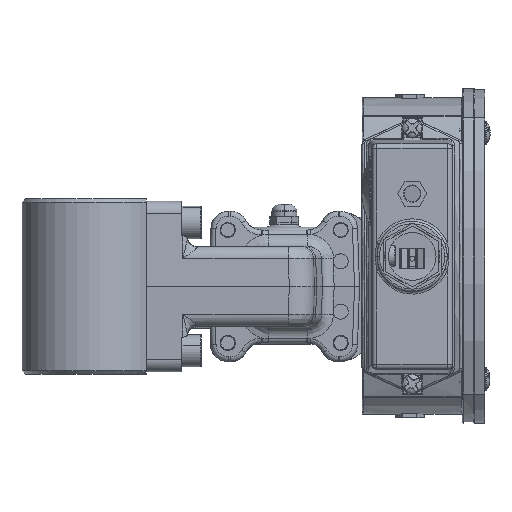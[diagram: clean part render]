
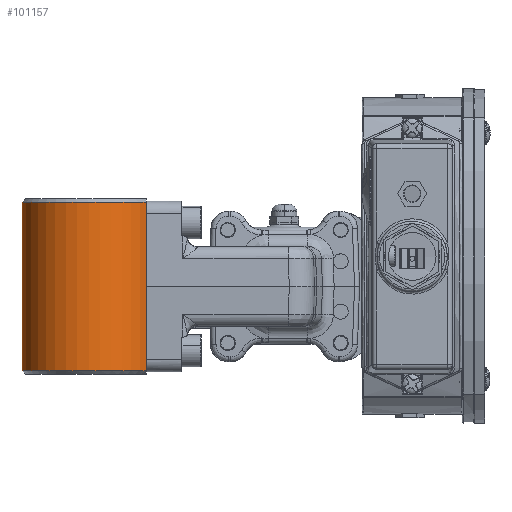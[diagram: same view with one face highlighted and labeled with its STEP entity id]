
A CAD part, front view. The second image highlights one B-rep face of the part: STEP entity #101157.
In plain terms, the highlighted cylindrical face has radius 26.5 mm (diameter 53 mm), a partial arc.
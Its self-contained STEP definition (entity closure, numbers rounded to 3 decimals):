
#2305 = CARTESIAN_POINT ( 'NONE',  ( -78.19, -367.693, 55.968 ) ) ;
#2432 = EDGE_CURVE ( 'NONE', #48945, #43047, #47043, .T. ) ;
#3003 = CARTESIAN_POINT ( 'NONE',  ( -55.19, -380.856, 55.968 ) ) ;
#3076 = ORIENTED_EDGE ( 'NONE', *, *, #76646, .T. ) ;
#6086 = ORIENTED_EDGE ( 'NONE', *, *, #2432, .T. ) ;
#8788 = CIRCLE ( 'NONE', #40958, 26.5 ) ;
#8857 = CARTESIAN_POINT ( 'NONE',  ( -78.19, -367.693, 57.468 ) ) ;
#16573 = LINE ( 'NONE', #44223, #97644 ) ;
#23041 = DIRECTION ( 'NONE',  ( 0., 0., 1. ) ) ;
#24080 = VERTEX_POINT ( 'NONE', #28230 ) ;
#28230 = CARTESIAN_POINT ( 'NONE',  ( -104.69, -367.693, -11.032 ) ) ;
#32378 = DIRECTION ( 'NONE',  ( 0., 0., 1. ) ) ;
#38991 = CARTESIAN_POINT ( 'NONE',  ( -55.19, -380.856, -11.032 ) ) ;
#39924 = CARTESIAN_POINT ( 'NONE',  ( -104.69, -367.693, 55.968 ) ) ;
#40958 = AXIS2_PLACEMENT_3D ( 'NONE', #79526, #32378, #87340 ) ;
#43047 = VERTEX_POINT ( 'NONE', #39924 ) ;
#44223 = CARTESIAN_POINT ( 'NONE',  ( -104.69, -367.693, 57.468 ) ) ;
#47043 = CIRCLE ( 'NONE', #94718, 26.5 ) ;
#48945 = VERTEX_POINT ( 'NONE', #3003 ) ;
#49531 = DIRECTION ( 'NONE',  ( 0., 0., -1. ) ) ;
#49773 = VECTOR ( 'NONE', #23041, 1000. ) ;
#57495 = DIRECTION ( 'NONE',  ( -1., 0., 0. ) ) ;
#57746 = EDGE_CURVE ( 'NONE', #43047, #24080, #16573, .T. ) ;
#63682 = DIRECTION ( 'NONE',  ( 0., 0., -1. ) ) ;
#66704 = ORIENTED_EDGE ( 'NONE', *, *, #79346, .T. ) ;
#67961 = DIRECTION ( 'NONE',  ( 0., 0., -1. ) ) ;
#70287 = EDGE_LOOP ( 'NONE', ( #6086, #92287, #66704, #3076 ) ) ;
#76646 = EDGE_CURVE ( 'NONE', #98442, #48945, #91449, .T. ) ;
#78104 = CARTESIAN_POINT ( 'NONE',  ( -55.19, -380.856, 57.468 ) ) ;
#79346 = EDGE_CURVE ( 'NONE', #24080, #98442, #8788, .T. ) ;
#79526 = CARTESIAN_POINT ( 'NONE',  ( -78.19, -367.693, -11.032 ) ) ;
#80125 = DIRECTION ( 'NONE',  ( -1., 0., 0. ) ) ;
#87340 = DIRECTION ( 'NONE',  ( -1., 0., 0. ) ) ;
#91449 = LINE ( 'NONE', #78104, #49773 ) ;
#92287 = ORIENTED_EDGE ( 'NONE', *, *, #57746, .T. ) ;
#94718 = AXIS2_PLACEMENT_3D ( 'NONE', #2305, #49531, #57495 ) ;
#94768 = AXIS2_PLACEMENT_3D ( 'NONE', #8857, #63682, #80125 ) ;
#97644 = VECTOR ( 'NONE', #67961, 1000. ) ;
#97718 = CYLINDRICAL_SURFACE ( 'NONE', #94768, 26.5 ) ;
#98442 = VERTEX_POINT ( 'NONE', #38991 ) ;
#100199 = FACE_OUTER_BOUND ( 'NONE', #70287, .T. ) ;
#101157 = ADVANCED_FACE ( 'NONE', ( #100199 ), #97718, .T. ) ;
